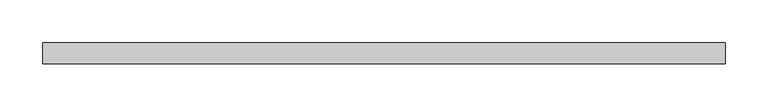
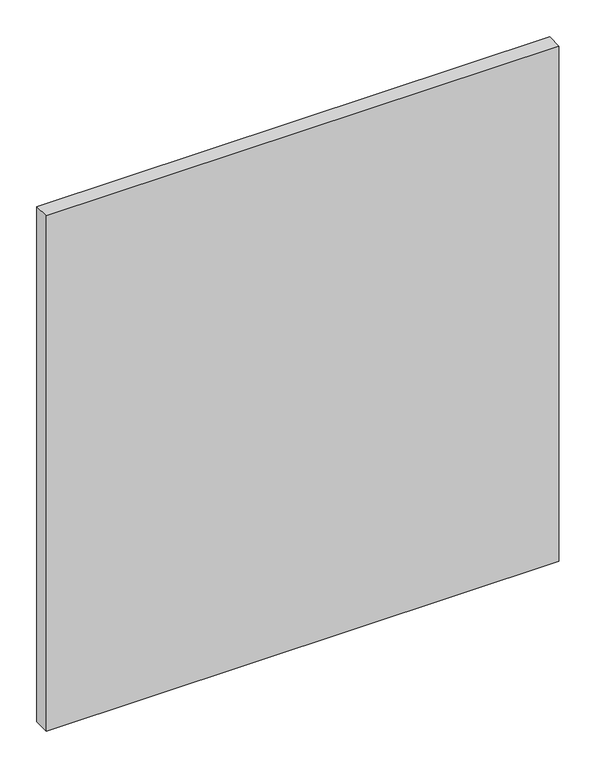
"""IFC4 building model written with IfcOpenShell, lengths in millimetres: plate geometry, 系统嵌板 : 玻璃."""

from ifc_helpers import new_model, si_unit, origin, origin_with_axes, place, context, project, spatial, polyline, outline, extrude, source, transform, mapped, element, save


def plate_457c613e(model_context):
    return source(origin(), model_context, "Body", "SweptSolid", [
        extrude(outline(polyline([(400.0, -12.5), (-400.0, -12.5), (-400.0, 12.5), (400.0, 12.5), (400.0, -12.5)])), origin_with_axes(), (0.0, 0.0, 1.0), 850.0),
    ])


if __name__ == "__main__":
    model = new_model("IFC4")
    model_context = context("Model", 3, world=origin())
    ifc_project = project(units=[si_unit("LENGTHUNIT", "METRE", prefix="MILLI")], contexts=[model_context])
    site = spatial("IfcSite", under=ifc_project)
    building = spatial("IfcBuilding", under=site)
    placement = place(None, origin())
    plate_shape = plate_457c613e(model_context)
    element("IfcPlate", 1, ObjectType="系统嵌板 : 玻璃", at=placement, inside=building, context=model_context, shape_type="MappedRepresentation", body=[
        mapped(plate_shape, transform((0.0, 0.0, 0.0), x_axis=(1.0, 0.0, 0.0), y_axis=(0.0, 1.0, 0.0), z_axis=(0.0, 0.0, 1.0))),
    ])
    save(model, "model.ifc")
